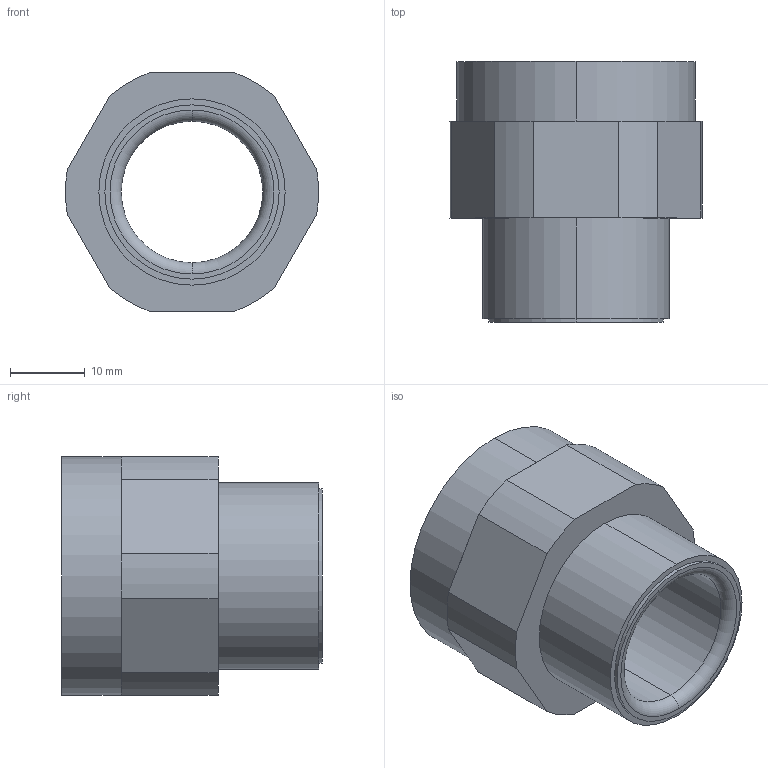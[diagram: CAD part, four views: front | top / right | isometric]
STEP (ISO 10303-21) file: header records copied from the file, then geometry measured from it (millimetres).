
FILE_DESCRIPTION (( 'STEP AP203' ), '1' );
FILE_NAME ('WYTC-20-M25.STEP', '2020-03-12T01:36:00', ( 'c' ), ( 'Microsoft' ), 'SwSTEP 2.0', 'SolidWorks 2016', '' );
FILE_SCHEMA (( 'CONFIG_CONTROL_DESIGN' ));
Length unit declared in the file: millimetre
Products named in the file (1): WYTC-20-M25
Bounding box: 33.94 x 35 x 32 mm (x, y, z)
Volume: 10015.7 mm3; surface area: 7381.9 mm2
Topology: 1 solids, 1 shells, 53 faces, 116 edges, 72 vertices
Faces by surface type: cylinder 24, plane 21, torus 8
Entity records: 1551 total; most frequent: DIRECTION 292, CARTESIAN_POINT 242, ORIENTED_EDGE 232, AXIS2_PLACEMENT_3D 122, EDGE_CURVE 116, VERTEX_POINT 72, CIRCLE 68, EDGE_LOOP 62
